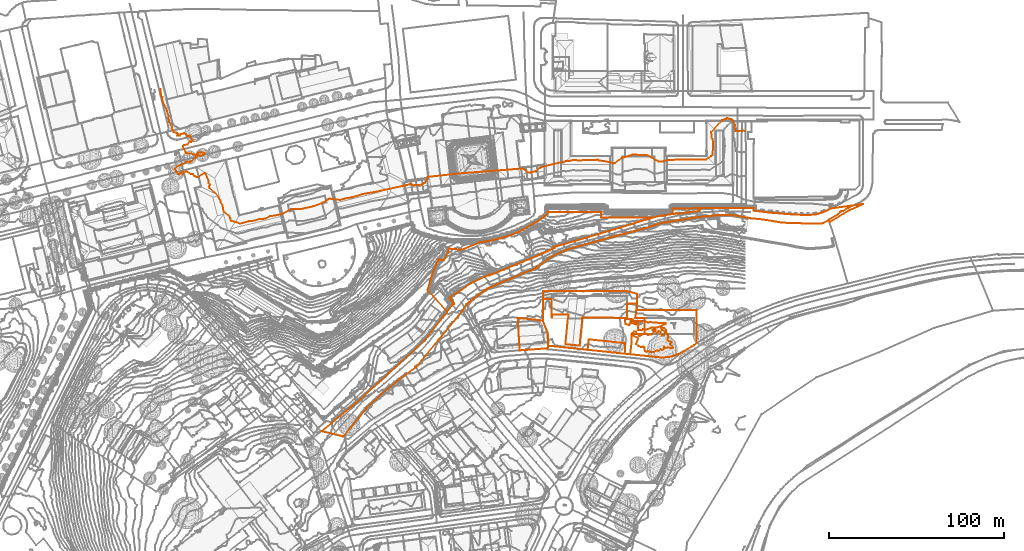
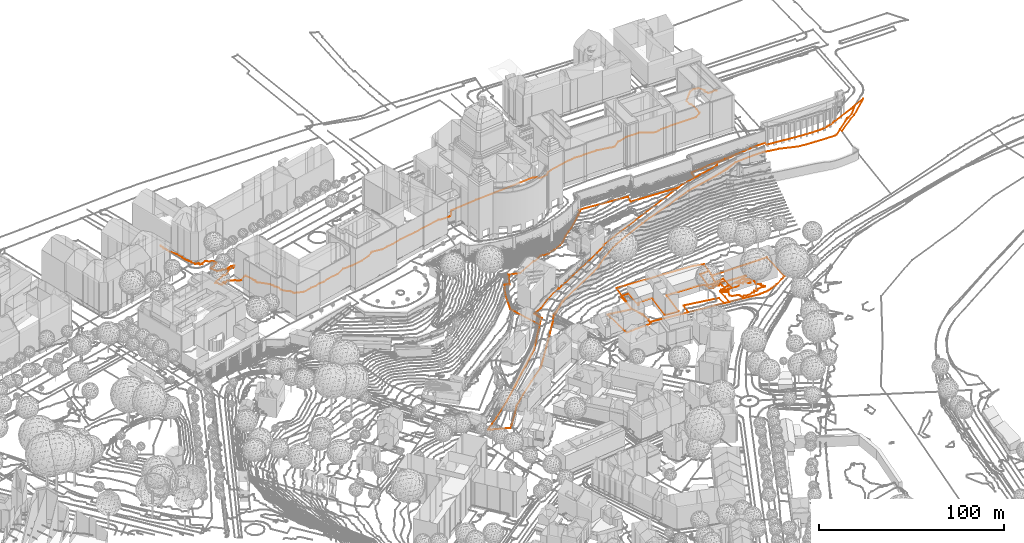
# Not in any storey, part 192 of 477: 8 geographic elements, 2 civil elements.
"""IFC4 model written with IfcOpenShell, lengths in metres."""

import ifcopenshell
import ifcopenshell.guid

model = None  # the IFC model being written
_history = None  # IfcOwnerHistory: only IFC2X3 demands one
_inside = {}  # id of a spatial element -> (the spatial element, [elements in it])
_under = {}  # id of a project, library or spatial element -> (it, [spatial elements below it])
_declared = {}  # id of a project -> (the project, [libraries it declares])
_typed = {}  # id of a type object -> (the type object, [elements of that type])
_made_of = {}  # id of a material, layer set ... -> (it, [elements and type objects made of it])


def new_model(schema):
    """Start an empty IFC model of exactly this schema.

    Asked for "IFC4X3", IfcOpenShell would pick the latest addendum, in which some entities
    have other attributes; the version numbers below select the first issue.
    IFC2X3 requires an IfcOwnerHistory on every rooted entity: one is made here for all.
    """
    global model, _history
    if schema == "IFC4X3":
        model = ifcopenshell.file(schema_version=(4, 3, 0, 0))
    else:
        model = ifcopenshell.file(schema=schema)
    _inside.clear()
    _under.clear()
    _declared.clear()
    _typed.clear()
    _made_of.clear()
    _history = None
    if model.schema == "IFC2X3":
        org = make("IfcOrganization", Name="unknown")
        user = make(
            "IfcPersonAndOrganization",
            ThePerson=make("IfcPerson", FamilyName="unknown"),
            TheOrganization=org,
        )
        app = make(
            "IfcApplication",
            ApplicationDeveloper=org,
            Version="unknown",
            ApplicationFullName="unknown",
            ApplicationIdentifier="unknown",
        )
        _history = make(
            "IfcOwnerHistory",
            OwningUser=user,
            OwningApplication=app,
            ChangeAction="ADDED",
            CreationDate=0,
        )
    return model


def make(cls, **values):
    """One entity of the class cls with the attributes given. An attribute that is None is left unset."""
    return model.create_entity(
        cls, **{name: value for name, value in values.items() if value is not None}
    )


def entity(cls, *values):
    """Any entity or typed value of the class cls, its attributes in the order of the schema. None: left unset."""
    e = model.create_entity(cls)
    for i, value in enumerate(values):
        if value is not None:
            e[i] = value
    return e


def rooted(cls, **values):
    """An entity with a GlobalId (a new one), such as an element, a storey or a relation."""
    return make(cls, GlobalId=ifcopenshell.guid.new(), OwnerHistory=_history, **values)


def si_unit(unit_type, name, prefix=None):
    """IfcSIUnit, for example si_unit("LENGTHUNIT", "METRE", prefix="MILLI")."""
    return make("IfcSIUnit", UnitType=unit_type, Prefix=prefix, Name=name)


def assignment(units):
    """IfcUnitAssignment: the units of a project."""
    return None if units is None else make("IfcUnitAssignment", Units=units)


def point(xyz):
    """IfcCartesianPoint."""
    return None if xyz is None else make("IfcCartesianPoint", Coordinates=xyz)


def direction(xyz):
    """IfcDirection."""
    return None if xyz is None else make("IfcDirection", DirectionRatios=xyz)


def frame(location, z_axis=None, x_axis=None):
    """IfcAxis2Placement3D, a coordinate frame: its origin and axes. An axis left out is left unset."""
    return make(
        "IfcAxis2Placement3D",
        Location=point(location),
        Axis=direction(z_axis),
        RefDirection=direction(x_axis),
    )


def origin_with_axes():
    """The frame at (0, 0, 0) with the z axis (0, 0, 1) and the x axis (1, 0, 0) written out."""
    return frame((0.0, 0.0, 0.0), z_axis=(0.0, 0.0, 1.0), x_axis=(1.0, 0.0, 0.0))


def place(relative_to, where):
    """IfcLocalPlacement: puts the frame where relative to a parent placement (None: the world)."""
    return make(
        "IfcLocalPlacement", PlacementRelTo=relative_to, RelativePlacement=where
    )


def context(
    kind, dimensions, precision=None, world=None, true_north=None, identifier=None
):
    """IfcGeometricRepresentationContext, for example the 3D "Model" context."""
    return make(
        "IfcGeometricRepresentationContext",
        ContextIdentifier=identifier,
        ContextType=kind,
        CoordinateSpaceDimension=dimensions,
        Precision=precision,
        WorldCoordinateSystem=world,
        TrueNorth=true_north,
    )


def subcontext(parent, identifier, kind, view, scale=None):
    """IfcGeometricRepresentationSubContext, for example "Body" below "Model"."""
    return make(
        "IfcGeometricRepresentationSubContext",
        ContextIdentifier=identifier,
        ContextType=kind,
        ParentContext=parent,
        TargetScale=scale,
        TargetView=view,
    )


def project(units=None, contexts=None):
    """IfcProject with its units and contexts."""
    return rooted(
        "IfcProject",
        Name="project",
        RepresentationContexts=contexts,
        UnitsInContext=assignment(units),
    )


def spatial(cls, under=None, at=None, **own):
    """A site, building, storey or space (cls), placed at a placement, below another one or the project."""
    s = rooted(cls, ObjectPlacement=at, **own)
    if under is not None:
        _under.setdefault(under.id(), (under, []))[1].append(s)
    return s


def shape(context_of_items, identifier, shape_type, items):
    """IfcShapeRepresentation: the items that make up one representation, for example the "Body"."""
    return make(
        "IfcShapeRepresentation",
        ContextOfItems=context_of_items,
        RepresentationIdentifier=identifier,
        RepresentationType=shape_type,
        Items=items,
    )


def made_of(thing, what):
    """Note that an element or type object is made of a material, layer set ...; save() writes the relation."""
    if what is not None:
        _made_of.setdefault(what.id(), (what, []))[1].append(thing)
    return thing


def element(
    cls,
    number,
    at=None,
    inside=None,
    cuts=None,
    type_object=None,
    material=None,
    context=None,
    identifier="Body",
    shape_type=None,
    held_by="IfcProductDefinitionShape",
    body=None,
    shapes=None,
    **own,
):
    """One element of the class cls, such as IfcWall. Its Tag is "e" and its number.

    at: its placement. inside: the storey or other place that contains it. cuts: it is an
    opening in that element (IfcRelVoidsElement). A single representation is given by context,
    identifier, shape_type and body (its items); several are given by shapes. held_by: the class
    of the entity that holds the representations. save() writes the other relations.
    """
    e = rooted(cls, Tag="e%d" % number, ObjectPlacement=at, **own)
    if body is not None:
        shapes = [shape(context, identifier, shape_type, body)]
    if shapes is not None:
        e.Representation = make(held_by, Representations=shapes)
    if inside is not None:
        _inside.setdefault(inside.id(), (inside, []))[1].append(e)
    if cuts is not None:
        rooted(
            "IfcRelVoidsElement", RelatingBuildingElement=cuts, RelatedOpeningElement=e
        )
    if type_object is not None:
        _typed.setdefault(type_object.id(), (type_object, []))[1].append(e)
    return made_of(e, material)


def aggregate(whole, parts):
    """IfcRelAggregates: a whole, such as a stair, and the parts it consists of."""
    return rooted("IfcRelAggregates", RelatingObject=whole, RelatedObjects=parts)


def save(model, path):
    """Write the relations noted so far, then the file.

    IfcRelAggregates (storeys below a building ...), IfcRelContainedInSpatialStructure (elements
    in a storey), IfcRelDefinesByType, IfcRelAssociatesMaterial and IfcRelDeclares: one each for
    every whole, place, type object, material and project.
    """
    for whole, parts in _under.values():
        aggregate(whole, parts)
    for where, things in _inside.values():
        rooted(
            "IfcRelContainedInSpatialStructure",
            RelatedElements=things,
            RelatingStructure=where,
        )
    for kind, things in _typed.values():
        rooted("IfcRelDefinesByType", RelatedObjects=things, RelatingType=kind)
    for what, things in _made_of.values():
        rooted("IfcRelAssociatesMaterial", RelatedObjects=things, RelatingMaterial=what)
    for by, libraries in _declared.values():
        rooted("IfcRelDeclares", RelatingContext=by, RelatedDefinitions=libraries)
    model.write(path)


model = new_model("IFC4")

# Units and contexts
model_context = context("Model", 3, precision=1e-05, world=origin_with_axes())
body_context = subcontext(model_context, "Body", "Model", "MODEL_VIEW")
ifc_project = project(units=[si_unit("AREAUNIT", "SQUARE_METRE"), si_unit("LENGTHUNIT", "METRE")], contexts=[model_context])

# Sites
site_1_placement = place(None, origin_with_axes())
site_1 = spatial("IfcSite", under=ifc_project, at=site_1_placement, Name="Topoexport Site")
site_2_placement = place(site_1_placement, origin_with_axes())
site_2 = spatial("IfcSite", under=site_1, at=site_2_placement, Name="TPX_ROADS_OUTLINES")

# Civil elements
civil_element_1_placement = place(site_2_placement, frame((572.5467320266, 295.5037160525, 503.5652517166), z_axis=(0.0, 0.0, 1.0), x_axis=(1.0, 0.0, 0.0)))
element("IfcCivilElement", 1, at=civil_element_1_placement, inside=site_2, Name="Roads Outline 75", ObjectType="ROAD", context=body_context, shape_type="GeometricCurveSet", body=[
    entity("IfcGeometricCurveSet", [entity("IfcIndexedPolyCurve", entity("IfcCartesianPointList3D", [[0.0, 0.0, 0.0], [0.0929999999, 12.2039999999, 1.0021894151], [4.997, 12.1809999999, 1.1431564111], [4.9470000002, 1.696, 0.0001002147], [5.3470000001, 1.6949999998, 0.0318908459], [5.3510000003, 3.395, 0.1046142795], [14.6699999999, 3.3739999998, 0.2712751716], [14.5180000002, 1.834, 0.1303660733], [14.358, 1.8499999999, 0.128297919], [12.8770000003, -13.118, -0.1621382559], [13.0360000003, -13.1340000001, -0.1623201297], [12.9990000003, -13.5120000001, -0.2126391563], [20.8360000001, -14.2960000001, -0.3145292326], [20.872, -13.9380000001, -0.2676843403], [21.031, -13.9540000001, -0.2716908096], [22.5460000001, 1.1939999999, 0.2283681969], [22.392, 1.209, 0.228667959], [22.423, 1.5659999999, 0.2669260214], [22.9700000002, 1.5659999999, 0.1954197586], [22.9700000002, 1.6359999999, 0.203171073], [42.9620000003, 1.5819999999, -0.3715662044], [42.9640000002, 1.5119999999, -0.367960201], [48.105, 1.4649999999, -1.5519957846], [48.1189999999, 9.6209999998, 0.3399770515], [53.852, 9.612, 0.6102296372], [52.8000000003, 1.5059999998, -1.4005607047], [53.696, 1.5049999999, -1.4066999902], [58.2370000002, 1.4949999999, -1.210120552], [58.2370000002, -7.6370000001, -1.6249559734], [53.693, -7.6300000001, -1.5895046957], [50.8140000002, -7.625, -1.5833196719], [50.6240000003, -13.078, -1.4773283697], [49.841, -19.2520000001, -1.0334993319], [46.7930000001, -18.9340000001, -1.0060092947], [47.0020000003, -12.929, -1.2284957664], [26.1490000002, -10.73, -0.1969498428], [25.54, -16.7120000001, -0.8530217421], [2.9500000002, -14.351, -0.7882030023], [3.1570000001, -12.4440000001, -0.6795554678], [2.9709999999, -12.4570000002, -0.67496345], [2.574, -6.7240000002, -0.3101209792], [0.0, 0.0, 0.0]]))]),
])
civil_element_2_placement = place(site_2_placement, frame((446.1007320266, 232.3027160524, 506.4839161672), z_axis=(0.0, 0.0, 1.0), x_axis=(1.0, 0.0, 0.0)))
element("IfcCivilElement", 2, at=civil_element_2_placement, inside=site_2, Name="Roads Outline 95", ObjectType="ROAD", context=body_context, shape_type="GeometricCurveSet", body=[
    entity("IfcGeometricCurveSet", [entity("IfcIndexedPolyCurve", entity("IfcCartesianPointList3D", [[0.0, 0.0, 0.0], [5.8990000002, 4.939, 0.1074958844], [9.088, 7.6100000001, -0.3880306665], [9.8930000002, 8.273, -0.3732149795], [22.1860000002, 18.3910000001, -0.4672049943], [28.6040000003, 24.2560000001, -0.2123942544], [58.4920000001, 51.575, 1.2662591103], [70.1150000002, 66.29, 2.3153255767], [71.8110000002, 68.4370000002, 2.6812285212], [74.4100000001, 71.767, 2.8700436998], [75.77, 72.7480000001, 2.9635177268], [75.6660000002, 72.8859999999, 3.001647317], [75.4909999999, 73.1189999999, 3.0791915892], [75.2790000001, 73.402, 3.1857140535], [75.091, 73.6529999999, 3.2170798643], [74.9190000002, 73.8810000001, 3.3292336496], [74.7320000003, 74.132, 3.5119152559], [74.5530000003, 74.3689999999, 3.7385145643], [74.3740000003, 74.608, 3.9174924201], [74.1720000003, 74.8770000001, 4.1176283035], [74.003, 75.1030000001, 4.2592164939], [73.821, 75.345, 4.4141067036], [73.6150000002, 75.621, 4.4813286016], [73.4350000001, 75.8600000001, 4.5822325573], [73.2400000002, 76.1189999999, 4.7489271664], [73.0500000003, 76.3730000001, 4.9524597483], [79.6400000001, 80.618, 3.6526370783], [85.5190000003, 84.629, 4.3979951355], [95.588, 89.46, 5.9607220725], [95.798, 88.98, 5.8919173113], [97.585, 89.716, 6.188335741], [98.5870000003, 90.128, 6.330554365], [120.7760000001, 99.253, 9.7570997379], [126.486, 101.7820000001, 10.7007699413], [127.0079999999, 102.013, 10.7747824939], [128.9920000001, 102.8910000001, 11.1085907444], [129.4620000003, 103.0989999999, 11.1793821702], [133.1540000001, 104.7339999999, 11.7926087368], [132.9339999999, 105.304, 11.8923093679], [159.7620000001, 113.0970000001, 15.8523871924], [189.0989999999, 121.97, 19.8075010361], [193.0090000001, 123.02, 20.2163377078], [200.628, 124.0360000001, 21.0748858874], [210.0070000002, 124.986, 22.1318307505], [215.2379999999, 125.7830000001, 22.7274746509], [215.5640000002, 125.9210000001, 22.7731889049], [215.8530000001, 126.1259999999, 22.8101980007], [216.091, 126.388, 22.8337718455], [216.267, 126.6950000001, 22.8933199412], [216.3730000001, 127.0330000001, 22.9555259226], [216.4040000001, 127.3859999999, 23.0567249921], [234.9410000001, 127.5449999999, 25.0631974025], [239.855, 127.5870000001, 25.5103714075], [240.2690000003, 127.591, 25.5737966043], [242.4139999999, 127.6089999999, 25.7486517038], [246.7740000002, 127.6189999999, 25.7562884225], [246.7940000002, 125.9340000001, 25.5970639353], [256.773, 124.7850000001, 25.6477351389], [268.5670000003, 123.8360000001, 25.6154808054], [271.2320000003, 123.6980000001, 25.6016673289], [273.8990000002, 123.6140000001, 25.5932591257], [276.5670000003, 123.5860000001, 25.5904563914], [277.9560000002, 123.5600000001, 25.5878538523], [279.3450000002, 123.605, 25.5923582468], [280.73, 123.7210000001, 25.603969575], [282.1070000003, 123.9080000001, 25.6226878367], [283.4730000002, 124.166, 25.648513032], [284.764, 124.548, 25.6596690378], [286.037, 124.9850000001, 25.6376643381], [287.2910000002, 125.4750000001, 25.6143492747], [288.523, 126.017, 25.5939382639], [289.7310000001, 126.612, 25.5767884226], [290.9130000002, 127.2560000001, 25.5664114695], [303.5870000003, 129.0120000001, 29.1556839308], [300.8900000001, 127.5960000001, 25.7387239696], [297.8650000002, 125.8959999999, 25.5984949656], [297.5720000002, 125.8530000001, 25.6001142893], [297.284, 125.784, 25.602712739], [297.054, 125.709, 25.6055371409], [296.8300000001, 125.6170000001, 25.6090017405], [296.2970000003, 125.2590000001, 25.6238673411], [295.0730000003, 123.9510000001, 25.6269920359], [289.7940000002, 120.8260000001, 24.0356266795], [286.6129999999, 118.905, 22.7059490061], [285.4130000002, 118.5250000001, 22.4920366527], [273.2490000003, 118.791, 22.6417753], [267.4870000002, 118.915, 22.7115782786], [262.5630000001, 119.23, 22.8889003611], [251.6940000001, 120.9939999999, 24.1233488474], [245.284, 121.6240000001, 24.4206663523], [243.2600000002, 121.9410000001, 24.5470097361], [242.4040000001, 122.074, 24.6000181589], [234.375, 123.5330000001, 23.3298241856], [225.9210000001, 123.358, 22.8194700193], [220.423, 122.8090000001, 20.4684738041], [215.4870000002, 122.317, 19.6702709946], [200.8870000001, 120.0060000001, 18.5319538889], [193.639, 118.8600000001, 17.8934733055], [184.9250000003, 115.9440000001, 17.3362646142], [164.4920000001, 110.5870000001, 15.0317870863], [159.5060000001, 109.0970000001, 14.4636148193], [159.1720000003, 108.997, 14.3885333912], [140.1639999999, 103.7650000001, 10.7283547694], [133.7940000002, 100.814, 9.4340345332], [129.8250000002, 98.554, 8.8236002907], [123.2460000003, 93.9480000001, 8.0655184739], [123.415, 93.5430000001, 7.8823197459], [119.216, 91.912, 7.1155300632], [96.7290000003, 82.304, 3.6544075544], [95.4210000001, 81.703, 3.611258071], [94.1469999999, 81.034, 3.2488278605], [92.9100000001, 80.298, 3.3687471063], [91.7140000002, 79.4990000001, 3.0315082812], [90.5610000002, 78.6370000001, 2.8828477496], [89.8760000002, 78.1060000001, 2.7549767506], [89.1950000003, 77.5700000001, 2.6113873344], [87.014, 75.7690000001, 2.3516615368], [86.2930000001, 75.1459999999, 2.3509451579], [85.5640000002, 74.531, 2.3195028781], [84.6469999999, 73.7790000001, 2.3688592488], [83.719, 73.041, 2.4775161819], [83.6440000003, 73.135, 2.5301096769], [82.9640000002, 72.5930000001, 2.7927057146], [82.8200000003, 72.4780000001, 2.8273210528], [82.7609999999, 72.3870000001, 2.8357783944], [80.682, 69.2250000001, 2.5187811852], [80.4399999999, 68.858, 2.3447378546], [72.2170000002, 58.784, 1.0848605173], [66.8710000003, 52.2350000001, 0.5067630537], [54.7280000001, 37.4380000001, -0.1221918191], [53.8190000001, 36.942, -0.1215364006], [54.003, 36.608, -0.1864918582], [47.9330000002, 32.2420000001, -0.9836282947], [44.3940000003, 29.682, -1.3732528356], [34.0950000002, 21.1810000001, -1.5078236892], [25.7760000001, 13.591, -1.4293907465], [25.355, 13.0560000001, -1.4810701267], [20.6570000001, 7.091, -1.7935079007], [12.4280000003, -2.96, -1.328702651], [10.602, -2.5249999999, -1.1241985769], [0.0, 0.0, 0.0]]))]),
])

# Site
site_3_placement = place(site_1_placement, origin_with_axes())
site_3 = spatial("IfcSite", under=site_1, at=site_3_placement, Name="TPX_CADASTRES")

# Geographic elements
geographic_element_1_placement = place(site_3_placement, frame((446.1007320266, 232.3027160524, 506.4839161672), z_axis=(0.0, 0.0, 1.0), x_axis=(1.0, 0.0, 0.0)))
element("IfcGeographicElement", 3, at=geographic_element_1_placement, inside=site_3, Name="Cadastre 24", PredefinedType="NOTDEFINED", context=body_context, shape_type="GeometricCurveSet", body=[
    entity("IfcGeometricCurveSet", [entity("IfcIndexedPolyCurve", entity("IfcCartesianPointList3D", [[0.0, 0.0, 0.0], [9.088, 7.6100000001, -0.3880306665], [22.1860000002, 18.3910000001, -0.4672049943], [58.4920000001, 51.575, 1.2662591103], [71.8110000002, 68.4370000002, 2.6812285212], [74.4100000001, 71.767, 2.8700436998], [75.77, 72.7480000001, 2.9635177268], [73.0500000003, 76.3730000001, 4.9524597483], [79.6400000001, 80.618, 3.6526370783], [85.5190000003, 84.629, 4.3979951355], [95.588, 89.46, 5.9607220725], [95.798, 88.98, 5.8919173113], [120.7760000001, 99.253, 9.7570997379], [133.1540000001, 104.7339999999, 11.7926087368], [132.9339999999, 105.304, 11.8923093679], [159.7620000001, 113.0970000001, 15.8523871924], [189.0989999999, 121.97, 19.8075010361], [193.0090000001, 123.02, 20.2163377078], [200.628, 124.0360000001, 21.0748858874], [200.6129999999, 127.2509999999, 22.6152971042], [242.4139999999, 127.6089999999, 25.7486517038], [246.7740000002, 127.6189999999, 25.7562884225], [246.7940000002, 125.9340000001, 25.5970639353], [256.773, 124.7850000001, 25.6477351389], [268.5670000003, 123.8360000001, 25.6154808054], [271.2320000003, 123.6980000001, 25.6016673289], [273.8990000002, 123.6140000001, 25.5932591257], [276.5670000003, 123.5860000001, 25.5904563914], [277.9560000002, 123.5600000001, 25.5878538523], [279.3450000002, 123.605, 25.5923582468], [280.73, 123.7210000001, 25.603969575], [282.1070000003, 123.9080000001, 25.6226878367], [283.4730000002, 124.166, 25.648513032], [284.764, 124.548, 25.6596690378], [286.037, 124.9850000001, 25.6376643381], [287.2910000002, 125.4750000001, 25.6143492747], [288.523, 126.017, 25.5939382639], [289.7310000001, 126.612, 25.5767884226], [290.9130000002, 127.2560000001, 25.5664114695], [309.4750000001, 129.827, 31.6315327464], [301.6150000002, 126.2960000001, 25.583431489], [298.6040000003, 124.476, 25.6632945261], [290.1940000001, 119.575, 23.13837259], [289.7940000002, 120.8260000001, 24.0356266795], [286.6129999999, 118.905, 22.7059490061], [285.4130000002, 118.5250000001, 22.4920366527], [267.4870000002, 118.915, 22.7115782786], [262.5630000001, 119.23, 22.8889003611], [251.6940000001, 120.9939999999, 24.1233488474], [245.284, 121.6240000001, 24.4206663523], [242.4040000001, 122.074, 24.6000181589], [234.375, 123.5330000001, 23.3298241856], [225.9210000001, 123.358, 22.8194700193], [215.4870000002, 122.317, 19.6702709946], [193.639, 118.8600000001, 17.8934733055], [184.9250000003, 115.9440000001, 17.3362646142], [164.4920000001, 110.5870000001, 15.0317870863], [159.1720000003, 108.997, 14.3885333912], [140.1639999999, 103.7650000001, 10.7283547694], [133.7940000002, 100.814, 9.4340345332], [129.8250000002, 98.554, 8.8236002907], [123.2460000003, 93.9480000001, 8.0655184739], [123.415, 93.5430000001, 7.8823197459], [119.216, 91.912, 7.1155300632], [96.6880000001, 82.3500000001, 3.6830773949], [92.7379999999, 80.2590000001, 3.4170862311], [89.179, 77.5890000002, 2.6247762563], [83.0040000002, 72.7580000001, 2.7946065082], [80.4399999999, 68.858, 2.3447378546], [66.8710000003, 52.2350000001, 0.5067630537], [54.7030000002, 37.4080000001, -0.1249035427], [54.003, 36.608, -0.1864918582], [47.9330000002, 32.2420000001, -0.9836282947], [44.3940000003, 29.682, -1.3732528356], [34.0950000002, 21.1810000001, -1.5078236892], [25.7760000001, 13.591, -1.4293907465], [20.6570000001, 7.091, -1.7935079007], [12.4280000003, -2.96, -1.328702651], [0.0, 0.0, 0.0]]))]),
])
geographic_element_2_placement = place(site_3_placement, frame((506.6017320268, 313.0397160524, 516.0135455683), z_axis=(0.0, 0.0, 1.0), x_axis=(1.0, 0.0, 0.0)))
element("IfcGeographicElement", 4, at=geographic_element_2_placement, inside=site_3, Name="Cadastre 37", PredefinedType="NOTDEFINED", context=body_context, shape_type="GeometricCurveSet", body=[
    entity("IfcGeometricCurveSet", [entity("IfcIndexedPolyCurve", entity("IfcCartesianPointList3D", [[0.0, 0.0, 0.0], [3.0600000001, 10.081, 1.6406185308], [5.2399999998, 15.2720000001, 2.7861304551], [6.4350000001, 17.5320000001, 3.2720663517], [9.233, 16.8490000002, 2.6842204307], [11.4750000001, 21.0110000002, 3.7265048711], [12.1439999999, 22.2280000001, 4.041996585], [12.1439999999, 23.5530000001, 4.2435837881], [19.5720000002, 22.9380000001, 3.1266392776], [30.0290000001, 27.2410000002, 4.4539032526], [30.5630000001, 27.3, 4.3555789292], [31.0970000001, 27.3640000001, 4.2990319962], [33.077, 27.6300000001, 5.0294122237], [35.048, 27.953, 6.2647272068], [37.0099999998, 28.331, 5.4602994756], [38.9589999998, 28.7650000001, 5.0285413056], [40.8959999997, 29.2550000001, 4.4961991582], [43.1459999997, 29.9130000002, 5.1149731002], [45.3799999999, 30.6240000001, 4.7520919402], [47.5970000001, 31.3870000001, 5.2102222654], [49.7960000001, 32.2010000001, 5.4435960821], [51.9750000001, 33.0660000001, 5.9976461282], [51.9249999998, 33.186, 6.1559905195], [54.6329999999, 34.5890000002, 8.4461596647], [57.3199999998, 36.0330000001, 9.5868973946], [59.9840000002, 37.517, 10.1685057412], [61.7259999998, 38.6000000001, 10.8927702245], [63.4369999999, 39.7340000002, 11.7554734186], [65.1129999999, 40.9170000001, 12.5520296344], [66.7539999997, 42.148, 13.4104545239], [66.8640000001, 41.9880000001, 13.3886001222], [68.6230000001, 43.398, 14.4035128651], [68.6030000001, 44.5190000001, 14.5510963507], [99.2709999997, 44.5110000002, 12.5941932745], [99.1710000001, 41.2410000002, 11.256653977], [128.5979999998, 41.233, 10.277871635], [99.2609999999, 32.3600000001, 6.3227577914], [72.4329999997, 24.567, 2.3626799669], [72.6529999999, 23.997, 2.2629793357], [60.2749999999, 18.5160000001, 0.2274703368], [35.2969999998, 8.243, -3.6377120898], [35.0869999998, 8.723, -3.5689073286], [25.0180000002, 3.892, -5.1316342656], [19.139, -0.1189999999, -5.8769923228], [12.5490000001, -4.3639999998, -4.5771696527], [15.2689999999, -7.9889999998, -6.5661116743], [13.909, -8.97, -6.6595857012], [11.3100000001, -12.2999999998, -6.8484008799], [0.0, 0.0, 0.0]]))]),
])
geographic_element_3_placement = place(site_3_placement, frame((558.2277320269, 297.0727160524, 504.1260811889), z_axis=(0.0, 0.0, 1.0), x_axis=(1.0, 0.0, 0.0)))
element("IfcGeographicElement", 5, at=geographic_element_3_placement, inside=site_3, Name="Cadastre 121", PredefinedType="NOTDEFINED", context=body_context, shape_type="GeometricCurveSet", body=[
    entity("IfcGeometricCurveSet", [entity("IfcIndexedPolyCurve", entity("IfcCartesianPointList3D", [[0.0, 0.0, 0.0], [14.3189999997, -1.5689999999, -0.5608294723], [17.1039999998, -8.2749999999, -0.882284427], [17.4929999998, -13.8599999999, -1.2274075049], [17.2689999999, -15.9199999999, -1.3490324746], [17.1089999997, -17.3899999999, -1.4010812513], [1.0699999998, -18.602, -1.0858858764], [0.8799999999, -15.3810000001, -0.9630304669], [0.1399999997, -2.45, -0.2200865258], [0.0, 0.0, 0.0]]))]),
])
geographic_element_4_placement = place(site_3_placement, frame((572.5467320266, 295.5037160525, 503.5652517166), z_axis=(0.0, 0.0, 1.0), x_axis=(1.0, 0.0, 0.0)))
element("IfcGeographicElement", 6, at=geographic_element_4_placement, inside=site_3, Name="Cadastre 123", PredefinedType="NOTDEFINED", context=body_context, shape_type="GeometricCurveSet", body=[
    entity("IfcGeometricCurveSet", [entity("IfcIndexedPolyCurve", entity("IfcCartesianPointList3D", [[0.0, 0.0, 0.0], [0.1290000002, 16.9109999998, 3.7058547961], [47.9650000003, 16.8049999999, 1.619848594], [53.9070000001, 15.298, 1.468391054], [53.9070000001, 6.0259999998, -0.2183526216], [87.8289999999, 6.0289999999, -0.1216600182], [87.8289999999, -12.9720000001, -0.9539839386], [86.392, -13.933, -0.9497873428], [84.963, -14.905, -0.9389783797], [80.1830000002, -17.6410000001, -0.9250668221], [79.1030000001, -18.264, -0.9249988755], [77.9909999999, -18.827, -0.9539095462], [76.8489999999, -19.328, -0.9467399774], [75.682, -19.7660000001, -0.9172152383], [74.4920000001, -20.139, -0.9175791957], [73.284, -20.446, -0.9454837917], [72.0649999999, -20.6950000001, -0.9277617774], [70.8330000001, -20.878, -0.8881667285], [69.594, -20.9920000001, -0.892708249], [68.3500000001, -21.0380000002, -0.9676926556], [67.105, -21.017, -0.9909201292], [65.8640000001, -20.9270000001, -1.018300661], [2.9500000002, -14.351, -0.7882030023], [3.1740000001, -12.291, -0.6665780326], [2.7850000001, -6.706, -0.3214549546], [0.0, 0.0, 0.0]]))]),
])

# Site
site_4_placement = place(site_1_placement, origin_with_axes())
site_4 = spatial("IfcSite", under=site_1, at=site_4_placement, Name="TPX_CONTOUR_LINES")

# Geographic elements
geographic_element_5_placement = place(site_4_placement, frame((354.0435137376, 426.1707160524, 542.0), z_axis=(0.0, 0.0, 1.0), x_axis=(1.0, 0.0, 0.0)))
element("IfcGeographicElement", 7, at=geographic_element_5_placement, inside=site_4, Name="Contour Line 542.0 m", PredefinedType="NOTDEFINED", context=body_context, shape_type="GeometricCurveSet", body=[
    entity("IfcGeometricCurveSet", [entity("IfcIndexedPolyCurve", entity("IfcCartesianPointList3D", [[334.1342182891, -22.5193929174, 0.0], [332.6342182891, -22.0364864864, 0.0], [330.6342182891, -22.4542085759, 0.0], [328.6342182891, -22.3165064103, 0.0], [328.5171324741, -21.0, 0.0], [327.932772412, -20.0, 0.0], [328.4135262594, -19.0, 0.0], [326.6342182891, -15.7024904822, 0.0], [323.6342182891, -15.1041711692, 0.0], [320.9841616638, -16.0, 0.0], [314.7089359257, -23.0, 0.0], [314.8400377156, -26.0, 0.0], [315.5289317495, -27.0, 0.0], [315.7342592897, -29.0, 0.0], [315.8209386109, -32.0, 0.0], [315.3312647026, -36.0, 0.0], [314.6342182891, -36.7329192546, 0.0], [311.6342182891, -38.6040241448, 0.0], [289.6342182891, -38.8621056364, 0.0], [287.6342182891, -39.6509363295, 0.0], [285.6342182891, -39.9447803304, 0.0], [284.6342182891, -39.691989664, 0.0], [277.6342182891, -36.0589147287, 0.0], [269.6342182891, -35.9082377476, 0.0], [264.6342182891, -37.497232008, 0.0], [263.6342182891, -37.5782246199, 0.0], [259.6342182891, -40.7083786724, 0.0], [258.6342182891, -40.8464730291, 0.0], [256.6342182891, -40.1685772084, 0.0], [250.6342182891, -39.1710816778, 0.0], [249.6342182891, -38.7119429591, 0.0], [248.6342182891, -38.9811051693, 0.0], [241.6342182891, -38.9795281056, 0.0], [239.6342182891, -39.2350197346, 0.0], [235.6342182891, -38.9328410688, 0.0], [233.6342182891, -39.4330949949, 0.0], [231.6342182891, -39.5545280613, 0.0], [218.6342182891, -42.6614246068, 0.0], [216.6342182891, -43.399482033, 0.0], [214.6342182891, -45.2776632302, 0.0], [211.6342182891, -45.9920387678, 0.0], [209.6342182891, -46.1073977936, 0.0], [208.6342182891, -44.7158469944, 0.0], [206.6342182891, -43.8150664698, 0.0], [169.6342182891, -46.7037802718, 0.0], [153.6342182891, -48.5062761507, 0.0], [152.6342182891, -48.770124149, 0.0], [151.0067062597, -52.0, 0.0], [149.6342182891, -52.9912327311, 0.0], [144.6342182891, -53.383901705, 0.0], [142.6342182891, -52.7950647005, 0.0], [125.6342182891, -56.5814569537, 0.0], [115.6342182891, -58.3856545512, 0.0], [109.6342182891, -60.2153095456, 0.0], [105.6342182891, -60.896140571, 0.0], [102.6342182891, -61.7300553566, 0.0], [96.6342182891, -61.0561242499, 0.0], [95.6342182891, -61.4047023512, 0.0], [92.6342182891, -63.3796514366, 0.0], [87.6342182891, -65.3140939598, 0.0], [80.6342182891, -66.8172743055, 0.0], [74.6342182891, -66.9491768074, 0.0], [69.6342182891, -69.8056549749, 0.0], [62.6342182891, -71.0911726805, 0.0], [59.6342182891, -72.4978737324, 0.0], [56.6342182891, -72.5980360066, 0.0], [53.6342182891, -73.5762165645, 0.0], [50.6342182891, -73.8693649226, 0.0], [45.6342182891, -75.321707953, 0.0], [40.6342182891, -73.6820682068, 0.0], [40.0971892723, -73.0, 0.0], [39.6342182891, -71.3729582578, 0.0], [36.6739064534, -69.0, 0.0], [35.7239366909, -67.0, 0.0], [35.6342182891, -64.8711340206, 0.0], [34.3970487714, -63.0, 0.0], [34.3644814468, -62.0, 0.0], [33.6307490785, -61.0, 0.0], [33.3115816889, -60.0, 0.0], [28.1545609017, -55.0, 0.0], [27.7204473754, -54.0, 0.0], [28.2869128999, -53.0, 0.0], [27.5967395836, -52.0, 0.0], [27.557687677, -51.0, 0.0], [25.6342182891, -46.2770700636, 0.0], [24.6342182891, -46.6227129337, 0.0], [21.6342182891, -48.536259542, 0.0], [20.6342182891, -48.6357142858, 0.0], [19.3911045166, -48.0, 0.0], [18.6342182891, -47.0109546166, 0.0], [17.6342182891, -47.0950226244, 0.0], [14.6342182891, -45.4864321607, 0.0], [13.6342182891, -46.1237113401, 0.0], [12.6342182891, -45.62716763, 0.0], [11.8271275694, -46.0, 0.0], [12.6342182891, -47.0743575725, 0.0], [11.6342182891, -46.148, 0.0], [10.6342182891, -47.1727591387, 0.0], [10.1844138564, -47.0, 0.0], [9.4099758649, -46.0, 0.0], [9.0645384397, -45.0, 0.0], [8.0119221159, -44.0, 0.0], [9.6342182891, -42.6807817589, 0.0], [14.6342182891, -40.4855305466, 0.0], [15.0822895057, -40.0, 0.0], [15.6342182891, -39.8288868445, 0.0], [16.6342182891, -40.1660461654, 0.0], [17.6342182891, -39.6412280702, 0.0], [20.5166164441, -37.0, 0.0], [20.6342182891, -36.5761772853, 0.0], [21.6342182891, -36.1161387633, 0.0], [23.6342182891, -36.5839243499, 0.0], [24.381947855, -36.0, 0.0], [24.6342182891, -35.3842364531, 0.0], [25.3275516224, -35.0, 0.0], [23.6342182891, -34.4937786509, 0.0], [21.6342182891, -34.9079714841, 0.0], [20.6342182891, -35.775135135, 0.0], [18.6342182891, -35.7558494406, 0.0], [17.6342182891, -35.1934404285, 0.0], [16.6342182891, -35.354029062, 0.0], [14.6342182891, -34.8410991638, 0.0], [12.8199006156, -31.0, 0.0], [13.6342182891, -30.3745704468, 0.0], [15.4397738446, -30.0, 0.0], [16.6342182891, -28.5078260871, 0.0], [17.6342182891, -28.6208955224, 0.0], [18.3106410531, -28.0, 0.0], [17.5809808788, -26.0, 0.0], [16.8431539, -25.0, 0.0], [15.6342182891, -25.1827203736, 0.0], [15.1481934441, -25.0, 0.0], [14.6342182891, -24.1598984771, 0.0], [13.6342182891, -23.5247524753, 0.0], [11.6342182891, -24.2228571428, 0.0], [11.1778424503, -25.0, 0.0], [9.5248432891, -25.0, 0.0], [9.9624234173, -24.0, 0.0], [9.6342182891, -23.5173453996, 0.0], [7.5353810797, -23.0, 0.0], [7.3292761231, -22.0, 0.0], [6.5217922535, -21.0, 0.0], [6.7977731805, -20.0, 0.0], [5.8885354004, -19.0, 0.0], [5.7622836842, -18.0, 0.0], [4.9666244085, -17.0, 0.0], [4.9927088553, -16.0, 0.0], [4.425852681, -15.0, 0.0], [4.708019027, -14.0, 0.0], [3.5334198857, -10.0, 0.0], [1.4734219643, -6.0, 0.0], [1.0330840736, -4.0, 0.0], [1.1452315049, -3.0, 0.0], [0.2333036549, -2.0, 0.0], [0.5287869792, -1.0, 0.0], [0.0, 0.0, 0.0], [0.1426559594, 1.5, 0.0]]))]),
])
geographic_element_6_placement = place(site_4_placement, frame((619.6076306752, 296.1707160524, 502.0), z_axis=(0.0, 0.0, 1.0), x_axis=(1.0, 0.0, 0.0)))
element("IfcGeographicElement", 8, at=geographic_element_6_placement, inside=site_4, Name="Contour Line 502.0 m", PredefinedType="NOTDEFINED", context=body_context, shape_type="GeometricCurveSet", body=[
    entity("IfcGeometricCurveSet", [entity("IfcIndexedPolyCurve", entity("IfcCartesianPointList3D", [[6.0701013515, -3.0620689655, 0.0], [5.7630590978, -2.0, 0.0], [4.2093418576, -1.0, 0.0], [4.4644325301, 0.0, 0.0], [1.0701013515, 0.2873926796, 0.0], [0.0, 0.0, 0.0], [0.0701013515, -2.6172607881, 0.0], [2.0701013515, -3.2993197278, 0.0], [2.4659034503, -3.0, 0.0], [3.0701013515, -0.8973607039, 0.0], [3.7497130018, -1.0, 0.0], [3.5899033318, -2.0, 0.0], [6.0701013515, -3.0620689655, 0.0]]))]),
])
geographic_element_7_placement = place(site_4_placement, frame((625.2589286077, 295.1707160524, 502.0), z_axis=(0.0, 0.0, 1.0), x_axis=(1.0, 0.0, 0.0)))
element("IfcGeographicElement", 9, at=geographic_element_7_placement, inside=site_4, Name="Contour Line 502.0 m", PredefinedType="NOTDEFINED", context=body_context, shape_type="GeometricCurveSet", body=[
    entity("IfcGeometricCurveSet", [entity("IfcIndexedPolyCurve", entity("IfcCartesianPointList3D", [[5.418803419, -5.0202839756, 0.0], [9.418803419, -3.7517455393, 0.0], [12.418803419, -3.5302104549, 0.0], [14.2413840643, -3.0, 0.0], [16.2932428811, -2.0, 0.0], [16.418803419, -1.5409836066, 0.0], [17.418803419, -1.5378006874, 0.0], [17.5162201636, -1.0, 0.0], [13.418803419, -0.9929577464, 0.0], [8.418803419, -0.5353037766, 0.0], [7.418803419, -0.8538892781, 0.0], [5.418803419, 0.0475604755, 0.0], [0.0, 0.0, 0.0], [0.418803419, -0.7295285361, 0.0], [1.418803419, -1.1350059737, 0.0], [2.1011785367, -2.0, 0.0], [1.6584890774, -3.0, 0.0], [1.9716630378, -5.0, 0.0], [4.0359504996, -5.0, 0.0], [4.418803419, -4.3913043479, 0.0], [5.418803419, -5.0202839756, 0.0]]))]),
])
geographic_element_8_placement = place(site_4_placement, frame((623.3729926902, 288.1707160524, 502.0), z_axis=(0.0, 0.0, 1.0), x_axis=(1.0, 0.0, 0.0)))
element("IfcGeographicElement", 10, at=geographic_element_8_placement, inside=site_4, Name="Contour Line 502.0 m", PredefinedType="NOTDEFINED", context=body_context, shape_type="GeometricCurveSet", body=[
    entity("IfcGeometricCurveSet", [entity("IfcIndexedPolyCurve", entity("IfcCartesianPointList3D", [[15.3047393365, -10.1420181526, 0.0], [16.3047393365, -8.8322429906, 0.0], [17.3047393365, -9.5751269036, 0.0], [18.1669920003, -9.0, 0.0], [18.3047393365, -7.510989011, 0.0], [18.423406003, -8.0, 0.0], [19.3047393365, -8.3061602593, 0.0], [21.3047393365, -7.9454131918, 0.0], [22.3047393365, -8.3819444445, 0.0], [23.3047393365, -8.2797731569, 0.0], [23.5953152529, -8.0, 0.0], [21.9742884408, -6.0, 0.0], [22.6401724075, -5.0, 0.0], [20.2738355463, -4.0, 0.0], [20.8057964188, -2.0, 0.0], [20.6011395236, -1.0, 0.0], [19.6402513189, 1.0, 0.0], [19.5799686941, 2.0, 0.0], [18.3047393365, 2.9649923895, 0.0], [17.3047393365, 3.2866520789, 0.0], [16.5789775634, 3.0, 0.0], [17.3730714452, 2.0, 0.0], [18.9607333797, 1.0, 0.0], [18.3047393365, -1.3013937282, 0.0], [17.3047393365, -0.9341603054, 0.0], [16.482050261, 0.0, 0.0], [16.2747992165, 1.0, 0.0], [15.3047393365, 1.3424947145, 0.0], [14.3047393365, 0.0906488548, 0.0], [13.6981193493, 1.0, 0.0], [13.561959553, 2.0, 0.0], [13.3047393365, 2.2813425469, 0.0], [12.3047393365, 2.368104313, 0.0], [11.9572014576, 2.0, 0.0], [12.5510808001, 1.0, 0.0], [11.3047393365, -0.5372050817, 0.0], [9.3047393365, -0.8530099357, 0.0], [7.3047393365, 0.0230582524, 0.0], [4.3047393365, -1.5371539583, 0.0], [2.3047393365, 0.9295629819, 0.0], [1.3047393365, 1.1124528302, 0.0], [0.0, 0.0, 0.0], [0.2217576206, -1.0, 0.0], [3.3047393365, -2.4882198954, 0.0], [3.5623150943, -3.0, 0.0], [2.4473675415, -6.0, 0.0], [3.4215357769, -7.0, 0.0], [5.3047393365, -7.7744939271, 0.0], [6.3047393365, -7.6410475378, 0.0], [7.176197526, -8.0, 0.0], [7.1836750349, -9.0, 0.0], [7.5876122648, -10.0, 0.0], [8.3047393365, -10.5043518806, 0.0], [9.3047393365, -9.9760015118, 0.0], [10.3047393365, -10.5573436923, 0.0], [12.3047393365, -10.5470392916, 0.0], [14.3047393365, -9.7152734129, 0.0], [15.3047393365, -10.1420181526, 0.0]]))]),
])

save(model, "model.ifc")
